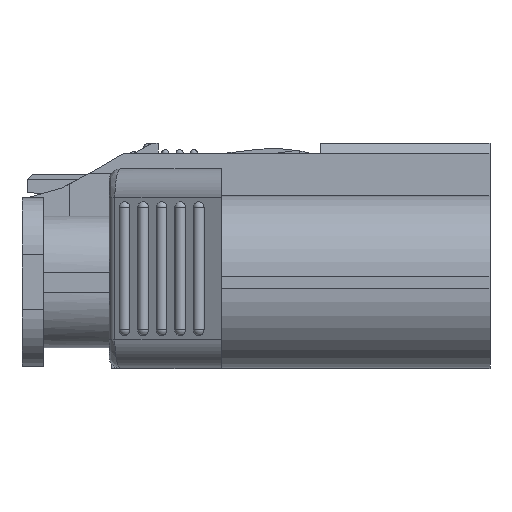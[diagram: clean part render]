
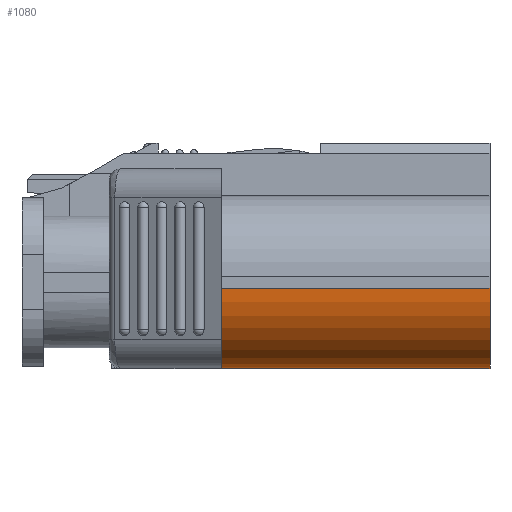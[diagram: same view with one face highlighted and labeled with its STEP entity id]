
A CAD part, left-side view. The second image highlights one B-rep face of the part: STEP entity #1080.
In plain terms, the highlighted cylindrical face has radius 5.625 mm (diameter 11.25 mm), a partial arc.
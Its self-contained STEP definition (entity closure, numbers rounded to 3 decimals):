
#356=CYLINDRICAL_SURFACE('',#11247,5.625);
#495=FACE_OUTER_BOUND('',#4377,.T.);
#1080=ADVANCED_FACE('',(#495),#356,.T.);
#2231=LINE('',#15543,#3367);
#2232=LINE('',#15547,#3368);
#3367=VECTOR('',#12468,1.);
#3368=VECTOR('',#12471,1.);
#4377=EDGE_LOOP('',(#5290,#5291,#5292,#5293));
#5290=ORIENTED_EDGE('',*,*,#9521,.T.);
#5291=ORIENTED_EDGE('',*,*,#9522,.F.);
#5292=ORIENTED_EDGE('',*,*,#9523,.T.);
#5293=ORIENTED_EDGE('',*,*,#9524,.F.);
#8440=VERTEX_POINT('',#15541);
#8441=VERTEX_POINT('',#15542);
#8442=VERTEX_POINT('',#15544);
#8443=VERTEX_POINT('',#15546);
#9521=EDGE_CURVE('',#8440,#8441,#10916,.T.);
#9522=EDGE_CURVE('',#8442,#8441,#2231,.T.);
#9523=EDGE_CURVE('',#8442,#8443,#10917,.T.);
#9524=EDGE_CURVE('',#8440,#8443,#2232,.T.);
#10916=CIRCLE('',#11245,5.625);
#10917=CIRCLE('',#11246,5.625);
#11245=AXIS2_PLACEMENT_3D('',#15540,#12466,#12467);
#11246=AXIS2_PLACEMENT_3D('',#15545,#12469,#12470);
#11247=AXIS2_PLACEMENT_3D('',#15548,#12472,#12473);
#12466=DIRECTION('',(0.,-1.,0.));
#12467=DIRECTION('',(1.,0.,0.));
#12468=DIRECTION('',(0.,1.,0.));
#12469=DIRECTION('',(0.,1.,0.));
#12470=DIRECTION('',(-1.,0.,0.));
#12471=DIRECTION('',(0.,-1.,0.));
#12472=DIRECTION('',(0.,1.,0.));
#12473=DIRECTION('',(-1.,0.,0.));
#15540=CARTESIAN_POINT('',(-6.45,18.8,-0.425));
#15541=CARTESIAN_POINT('',(-12.075,18.8,-0.425));
#15542=CARTESIAN_POINT('',(-6.45,18.8,-6.05));
#15543=CARTESIAN_POINT('',(-6.45,8.9,-6.05));
#15544=CARTESIAN_POINT('',(-6.45,0.,-6.05));
#15545=CARTESIAN_POINT('',(-6.45,0.,-0.425));
#15546=CARTESIAN_POINT('',(-12.075,0.,-0.425));
#15547=CARTESIAN_POINT('',(-12.075,8.9,-0.425));
#15548=CARTESIAN_POINT('',(-6.45,8.9,-0.425));
